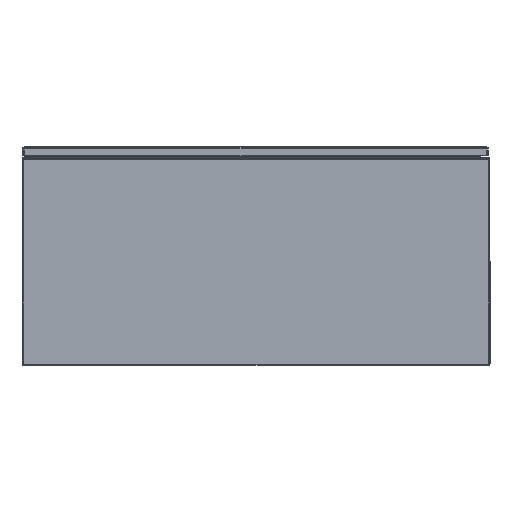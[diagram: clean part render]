
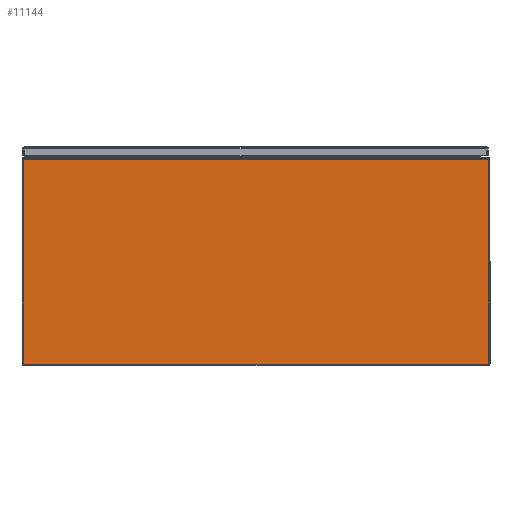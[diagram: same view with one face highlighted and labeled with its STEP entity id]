
A CAD part, front view. The second image highlights one B-rep face of the part: STEP entity #11144.
In plain terms, the highlighted planar face has unit normal (0, -1, 0).
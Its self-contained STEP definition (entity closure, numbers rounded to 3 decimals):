
#9960 = DIRECTION ( 'NONE',  ( 0., -1., 0. ) ) ;
#9961 = DIRECTION ( 'NONE',  ( 0., 0., -1. ) ) ;
#10204 = CARTESIAN_POINT ( 'NONE',  ( 18., 0., 0.08 ) ) ;
#10292 = PLANE ( 'NONE',  #63546 ) ;
#11144 = ADVANCED_FACE ( 'NONE', ( #69608 ), #10292, .T. ) ;
#11926 = EDGE_LOOP ( 'NONE', ( #12708, #12709, #12710, #12711 ) ) ;
#12708 = ORIENTED_EDGE ( 'NONE', *, *, #73267, .F. ) ;
#12709 = ORIENTED_EDGE ( 'NONE', *, *, #73266, .F. ) ;
#12710 = ORIENTED_EDGE ( 'NONE', *, *, #73264, .T. ) ;
#12711 = ORIENTED_EDGE ( 'NONE', *, *, #73268, .T. ) ;
#42694 = VERTEX_POINT ( 'NONE', #46671 ) ;
#42696 = VERTEX_POINT ( 'NONE', #46673 ) ;
#42698 = VERTEX_POINT ( 'NONE', #46675 ) ;
#42703 = VERTEX_POINT ( 'NONE', #46680 ) ;
#46671 = CARTESIAN_POINT ( 'NONE',  ( 17.921, 0., 15.838 ) ) ;
#46673 = CARTESIAN_POINT ( 'NONE',  ( -17.921, 0., 0.08 ) ) ;
#46675 = CARTESIAN_POINT ( 'NONE',  ( 17.921, 0., 0.08 ) ) ;
#46680 = CARTESIAN_POINT ( 'NONE',  ( -17.921, 0., 15.838 ) ) ;
#54347 = VECTOR ( 'NONE', #58480, 39.37 ) ;
#54349 = VECTOR ( 'NONE', #58474, 39.37 ) ;
#54351 = LINE ( 'NONE', #58481, #54358 ) ;
#54352 = LINE ( 'NONE', #58472, #54349 ) ;
#54353 = LINE ( 'NONE', #58475, #54356 ) ;
#54354 = LINE ( 'NONE', #58479, #54347 ) ;
#54356 = VECTOR ( 'NONE', #58482, 39.37 ) ;
#54358 = VECTOR ( 'NONE', #58484, 39.37 ) ;
#58472 = CARTESIAN_POINT ( 'NONE',  ( 18., 0., 15.838 ) ) ;
#58474 = DIRECTION ( 'NONE',  ( -1., 0., 0. ) ) ;
#58475 = CARTESIAN_POINT ( 'NONE',  ( 18., 0., 0.08 ) ) ;
#58479 = CARTESIAN_POINT ( 'NONE',  ( 17.921, 0., 0.08 ) ) ;
#58480 = DIRECTION ( 'NONE',  ( 0., 0., -1. ) ) ;
#58481 = CARTESIAN_POINT ( 'NONE',  ( -17.921, 0., 16.569 ) ) ;
#58482 = DIRECTION ( 'NONE',  ( -1., 0., 0. ) ) ;
#58484 = DIRECTION ( 'NONE',  ( 0., 0., -1. ) ) ;
#63546 = AXIS2_PLACEMENT_3D ( 'NONE', #10204, #9960, #9961 ) ;
#69608 = FACE_OUTER_BOUND ( 'NONE', #11926, .T. ) ;
#73264 = EDGE_CURVE ( 'NONE', #42694, #42703, #54352, .T. ) ;
#73266 = EDGE_CURVE ( 'NONE', #42694, #42698, #54354, .T. ) ;
#73267 = EDGE_CURVE ( 'NONE', #42698, #42696, #54353, .T. ) ;
#73268 = EDGE_CURVE ( 'NONE', #42703, #42696, #54351, .T. ) ;
